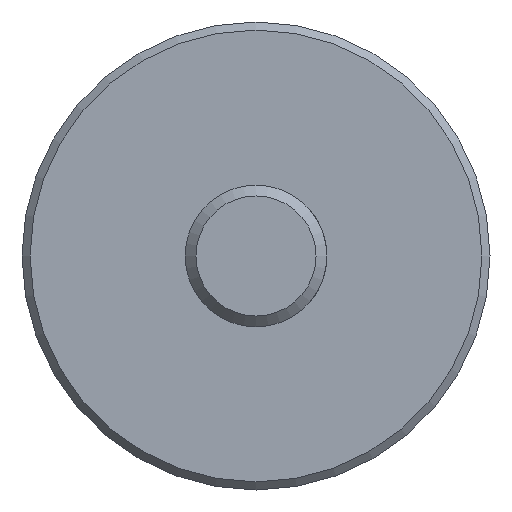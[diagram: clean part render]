
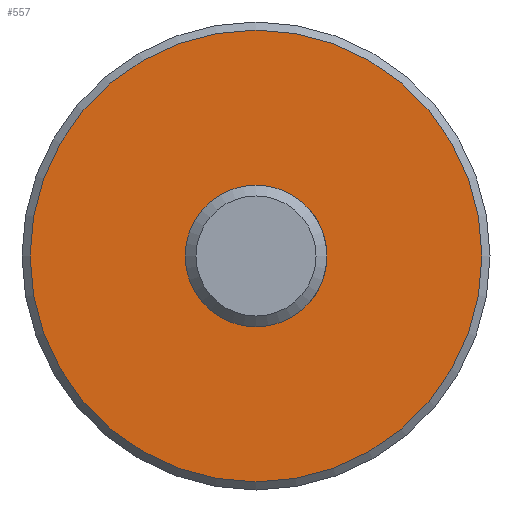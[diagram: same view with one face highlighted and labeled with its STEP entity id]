
A CAD part, front view. The second image highlights one B-rep face of the part: STEP entity #557.
In plain terms, the highlighted planar face has unit normal (0, -1, 0).
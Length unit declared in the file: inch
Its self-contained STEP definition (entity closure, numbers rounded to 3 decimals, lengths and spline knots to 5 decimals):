
#2 = DIRECTION ( 'NONE',  ( 0., 0., 1. ) ) ;
#56 = DIRECTION ( 'NONE',  ( 0., 0., 1. ) ) ;
#62 = CARTESIAN_POINT ( 'NONE',  ( 0., 3.33, 1.255 ) ) ;
#78 = EDGE_CURVE ( 'NONE', #499, #499, #214, .T. ) ;
#90 = FACE_BOUND ( 'NONE', #299, .T. ) ;
#94 = PLANE ( 'NONE',  #145 ) ;
#128 = DIRECTION ( 'NONE',  ( 0., 1., 0. ) ) ;
#145 = AXIS2_PLACEMENT_3D ( 'NONE', #264, #231, #56 ) ;
#205 = AXIS2_PLACEMENT_3D ( 'NONE', #225, #552, #505 ) ;
#214 = CIRCLE ( 'NONE', #205, 1.255 ) ;
#217 = EDGE_LOOP ( 'NONE', ( #305 ) ) ;
#225 = CARTESIAN_POINT ( 'NONE',  ( 0., 3.33, 0. ) ) ;
#231 = DIRECTION ( 'NONE',  ( 0., 1., 0. ) ) ;
#264 = CARTESIAN_POINT ( 'NONE',  ( 0.3937, 3.33, 0. ) ) ;
#299 = EDGE_LOOP ( 'NONE', ( #334 ) ) ;
#305 = ORIENTED_EDGE ( 'NONE', *, *, #78, .F. ) ;
#309 = FACE_OUTER_BOUND ( 'NONE', #217, .T. ) ;
#334 = ORIENTED_EDGE ( 'NONE', *, *, #481, .T. ) ;
#341 = CIRCLE ( 'NONE', #537, 0.3937 ) ;
#450 = CARTESIAN_POINT ( 'NONE',  ( 0., 3.33, 0.3937 ) ) ;
#481 = EDGE_CURVE ( 'NONE', #542, #542, #341, .T. ) ;
#499 = VERTEX_POINT ( 'NONE', #62 ) ;
#505 = DIRECTION ( 'NONE',  ( 0., 0., 1. ) ) ;
#537 = AXIS2_PLACEMENT_3D ( 'NONE', #571, #128, #2 ) ;
#542 = VERTEX_POINT ( 'NONE', #450 ) ;
#552 = DIRECTION ( 'NONE',  ( 0., 1., 0. ) ) ;
#557 = ADVANCED_FACE ( 'NONE', ( #309, #90 ), #94, .F. ) ;
#571 = CARTESIAN_POINT ( 'NONE',  ( 0., 3.33, 0. ) ) ;
